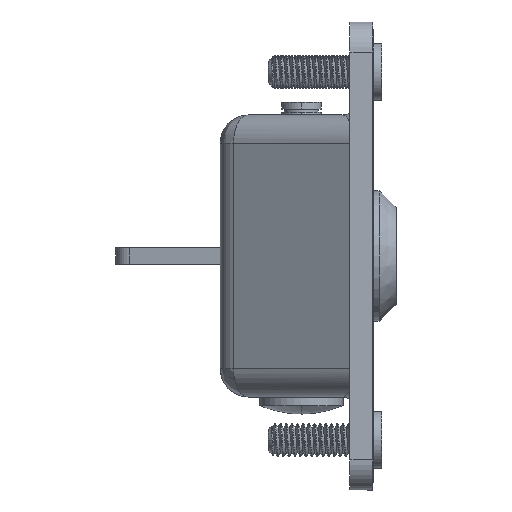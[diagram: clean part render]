
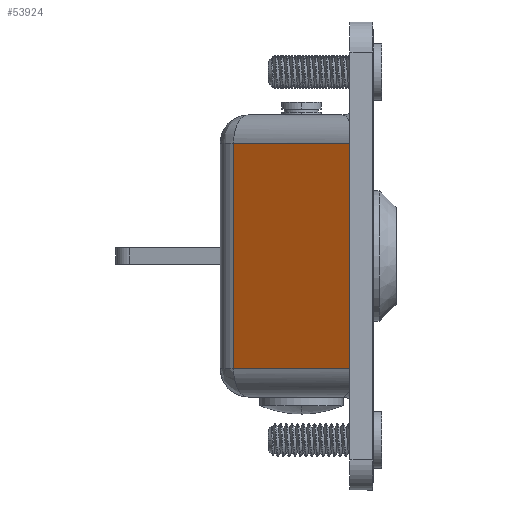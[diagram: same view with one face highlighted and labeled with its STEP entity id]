
A CAD part, left-side view. The second image highlights one B-rep face of the part: STEP entity #53924.
In plain terms, the highlighted planar face has unit normal (-0.848, 0.53, 0).
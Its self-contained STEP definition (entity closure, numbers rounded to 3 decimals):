
#4029 = DIRECTION ( 'NONE',  ( -0.53, -0.848, 0. ) ) ;
#5524 = DIRECTION ( 'NONE',  ( 0.848, -0.53, 0. ) ) ;
#5980 = CARTESIAN_POINT ( 'NONE',  ( -43.388, 3.38, 19.9 ) ) ;
#9519 = LINE ( 'NONE', #31130, #37546 ) ;
#18101 = FACE_OUTER_BOUND ( 'NONE', #56171, .T. ) ;
#18271 = CARTESIAN_POINT ( 'NONE',  ( -43.388, 3.38, -19.9 ) ) ;
#19158 = VERTEX_POINT ( 'NONE', #52541 ) ;
#21176 = CARTESIAN_POINT ( 'NONE',  ( -29.831, 25.075, 20.696 ) ) ;
#21467 = ORIENTED_EDGE ( 'NONE', *, *, #25155, .F. ) ;
#23907 = CARTESIAN_POINT ( 'NONE',  ( -43.388, 3.38, 19.9 ) ) ;
#25155 = EDGE_CURVE ( 'NONE', #57666, #19158, #9519, .T. ) ;
#26872 = ORIENTED_EDGE ( 'NONE', *, *, #61107, .F. ) ;
#28157 = CARTESIAN_POINT ( 'NONE',  ( -30.097, 24.65, 19.9 ) ) ;
#29457 = VECTOR ( 'NONE', #37508, 1000. ) ;
#29608 = AXIS2_PLACEMENT_3D ( 'NONE', #21176, #5524, #42336 ) ;
#30833 = VECTOR ( 'NONE', #64134, 1000. ) ;
#31130 = CARTESIAN_POINT ( 'NONE',  ( -36.742, 14.015, -19.9 ) ) ;
#32251 = VECTOR ( 'NONE', #4029, 1000. ) ;
#32789 = LINE ( 'NONE', #5980, #29457 ) ;
#36406 = DIRECTION ( 'NONE',  ( 0.53, 0.848, 0. ) ) ;
#37046 = PLANE ( 'NONE',  #29608 ) ;
#37204 = LINE ( 'NONE', #51682, #32251 ) ;
#37508 = DIRECTION ( 'NONE',  ( 0., 0., -1. ) ) ;
#37546 = VECTOR ( 'NONE', #36406, 1000. ) ;
#37821 = CARTESIAN_POINT ( 'NONE',  ( -30.097, 24.65, 0. ) ) ;
#42336 = DIRECTION ( 'NONE',  ( -0.53, -0.848, 0. ) ) ;
#43812 = VERTEX_POINT ( 'NONE', #23907 ) ;
#45312 = EDGE_CURVE ( 'NONE', #62126, #19158, #60566, .T. ) ;
#50108 = EDGE_CURVE ( 'NONE', #62126, #43812, #37204, .T. ) ;
#51682 = CARTESIAN_POINT ( 'NONE',  ( -36.742, 14.015, 19.9 ) ) ;
#52541 = CARTESIAN_POINT ( 'NONE',  ( -30.097, 24.65, -19.9 ) ) ;
#53924 = ADVANCED_FACE ( 'NONE', ( #18101 ), #37046, .F. ) ;
#56171 = EDGE_LOOP ( 'NONE', ( #62221, #21467, #26872, #57675 ) ) ;
#57666 = VERTEX_POINT ( 'NONE', #18271 ) ;
#57675 = ORIENTED_EDGE ( 'NONE', *, *, #50108, .F. ) ;
#60566 = LINE ( 'NONE', #37821, #30833 ) ;
#61107 = EDGE_CURVE ( 'NONE', #43812, #57666, #32789, .T. ) ;
#62126 = VERTEX_POINT ( 'NONE', #28157 ) ;
#62221 = ORIENTED_EDGE ( 'NONE', *, *, #45312, .T. ) ;
#64134 = DIRECTION ( 'NONE',  ( 0., 0., -1. ) ) ;
